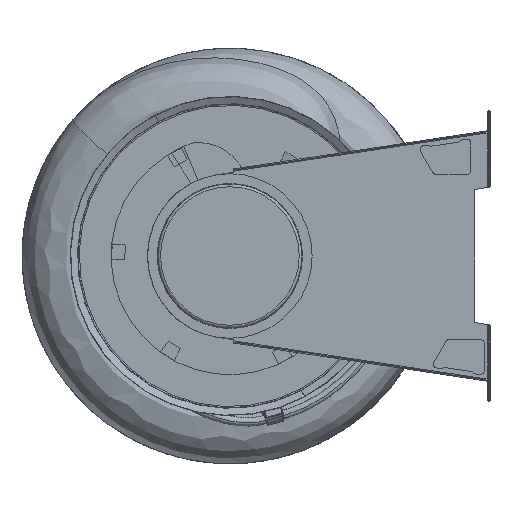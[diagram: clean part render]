
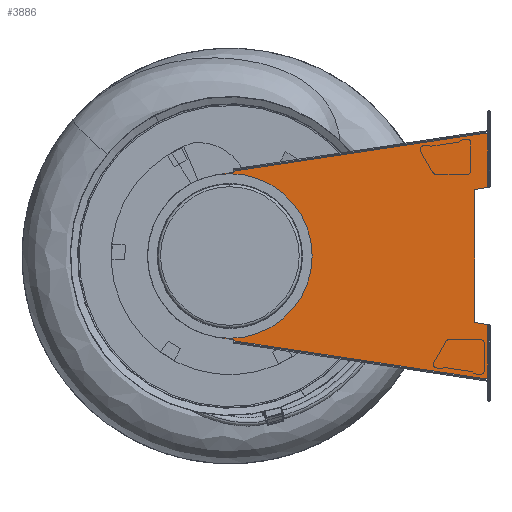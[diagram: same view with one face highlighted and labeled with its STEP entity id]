
A CAD part, left-side view. The second image highlights one B-rep face of the part: STEP entity #3886.
In plain terms, the highlighted planar face has unit normal (-1, 0, 0).
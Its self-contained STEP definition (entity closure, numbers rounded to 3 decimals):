
#2658=DIRECTION('',(0.,0.,1.));
#2659=VECTOR('',#2658,250.);
#2660=CARTESIAN_POINT('',(-1324.,-461.142,-125.));
#2661=LINE('',#2660,#2659);
#2674=CARTESIAN_POINT('',(-1324.,0.,0.));
#2675=DIRECTION('',(-1.,0.,0.));
#2676=DIRECTION('',(0.,1.,0.));
#2677=AXIS2_PLACEMENT_3D('',#2674,#2675,#2676);
#2679=CARTESIAN_POINT('',(-1324.,0.,0.));
#2680=DIRECTION('',(-1.,0.,0.));
#2681=DIRECTION('',(0.,-1.,0.));
#2682=AXIS2_PLACEMENT_3D('',#2679,#2680,#2681);
#2684=DIRECTION('',(0.,-0.989,0.149));
#2685=VECTOR('',#2684,3.105);
#2686=CARTESIAN_POINT('',(-1324.,23.07,153.273));
#2687=LINE('',#2686,#2685);
#2688=DIRECTION('',(0.,-0.989,0.149));
#2689=VECTOR('',#2688,6.895);
#2690=CARTESIAN_POINT('',(-1324.,20.,153.736));
#2691=LINE('',#2690,#2689);
#2692=DIRECTION('',(0.,-0.989,0.149));
#2693=VECTOR('',#2692,20.342);
#2694=CARTESIAN_POINT('',(-1324.,13.182,154.762));
#2695=LINE('',#2694,#2693);
#2696=CARTESIAN_POINT('',(-1324.,-21.767,160.022));
#2697=DIRECTION('',(1.,0.,0.));
#2698=DIRECTION('',(0.,0.989,-0.149));
#2699=AXIS2_PLACEMENT_3D('',#2696,#2697,#2698);
#2701=DIRECTION('',(0.,-0.989,0.149));
#2702=VECTOR('',#2701,3.853);
#2703=CARTESIAN_POINT('',(-1324.,-482.19,231.347));
#2704=LINE('',#2703,#2702);
#2705=DIRECTION('',(0.,0.,-1.));
#2706=VECTOR('',#2705,102.537);
#2707=CARTESIAN_POINT('',(-1324.,-486.,231.92));
#2708=LINE('',#2707,#2706);
#2709=DIRECTION('',(0.,0.985,-0.174));
#2710=VECTOR('',#2709,25.242);
#2711=CARTESIAN_POINT('',(-1324.,-486.,129.383));
#2712=LINE('',#2711,#2710);
#2713=DIRECTION('',(0.,0.985,0.174));
#2714=VECTOR('',#2713,25.242);
#2715=CARTESIAN_POINT('',(-1324.,-486.,-129.383));
#2716=LINE('',#2715,#2714);
#2717=DIRECTION('',(0.,0.,-1.));
#2718=VECTOR('',#2717,102.537);
#2719=CARTESIAN_POINT('',(-1324.,-486.,-129.383));
#2720=LINE('',#2719,#2718);
#2721=DIRECTION('',(0.,0.989,0.149));
#2722=VECTOR('',#2721,3.853);
#2723=CARTESIAN_POINT('',(-1324.,-486.,-231.92));
#2724=LINE('',#2723,#2722);
#2725=CARTESIAN_POINT('',(-1324.,-21.767,-160.022));
#2726=DIRECTION('',(1.,0.,0.));
#2727=DIRECTION('',(0.,1.,0.016));
#2728=AXIS2_PLACEMENT_3D('',#2725,#2726,#2727);
#2730=DIRECTION('',(0.,-0.989,-0.149));
#2731=VECTOR('',#2730,20.342);
#2732=CARTESIAN_POINT('',(-1324.,13.182,-154.762));
#2733=LINE('',#2732,#2731);
#2734=DIRECTION('',(0.,-0.989,-0.149));
#2735=VECTOR('',#2734,6.895);
#2736=CARTESIAN_POINT('',(-1324.,20.,-153.736));
#2737=LINE('',#2736,#2735);
#2738=DIRECTION('',(0.,-0.989,-0.149));
#2739=VECTOR('',#2738,3.105);
#2740=CARTESIAN_POINT('',(-1324.,23.07,-153.273));
#2741=LINE('',#2740,#2739);
#2747=CARTESIAN_POINT('',(-1324.,0.,0.));
#2748=DIRECTION('',(-1.,0.,0.));
#2749=DIRECTION('',(0.,0.149,0.989));
#2750=AXIS2_PLACEMENT_3D('',#2747,#2748,#2749);
#2784=CARTESIAN_POINT('',(-1324.,-6.769,159.787));
#2807=DIRECTION('',(0.,-0.989,0.149));
#2808=VECTOR('',#2807,480.777);
#2809=CARTESIAN_POINT('',(-1324.,-6.769,159.787));
#2810=LINE('',#2809,#2808);
#3377=CARTESIAN_POINT('',(-1324.,-6.769,-159.787));
#3379=DIRECTION('',(0.,-0.989,-0.149));
#3380=VECTOR('',#3379,480.777);
#3381=CARTESIAN_POINT('',(-1324.,-6.769,-159.787));
#3382=LINE('',#3381,#3380);
#3512=CARTESIAN_POINT('',(-1324.,-33.,0.));
#3513=CARTESIAN_POINT('',(-1324.,33.,0.));
#3514=VERTEX_POINT('',#3512);
#3515=VERTEX_POINT('',#3513);
#3517=CARTESIAN_POINT('',(-1324.,23.07,-153.273));
#3519=VERTEX_POINT('',#3517);
#3536=CARTESIAN_POINT('',(-1324.,-486.,-231.92));
#3537=CARTESIAN_POINT('',(-1324.,-482.19,-231.347));
#3538=VERTEX_POINT('',#3536);
#3539=VERTEX_POINT('',#3537);
#3590=CARTESIAN_POINT('',(-1324.,-486.,-129.383));
#3591=VERTEX_POINT('',#3590);
#3593=CARTESIAN_POINT('',(-1324.,23.07,153.273));
#3595=VERTEX_POINT('',#3593);
#3612=CARTESIAN_POINT('',(-1324.,-486.,231.92));
#3613=CARTESIAN_POINT('',(-1324.,-482.19,231.347));
#3614=VERTEX_POINT('',#3612);
#3615=VERTEX_POINT('',#3613);
#3653=CARTESIAN_POINT('',(-1324.,-486.,129.383));
#3654=VERTEX_POINT('',#3653);
#3659=CARTESIAN_POINT('',(-1324.,-461.142,-125.));
#3660=VERTEX_POINT('',#3659);
#3665=CARTESIAN_POINT('',(-1324.,-461.142,125.));
#3666=VERTEX_POINT('',#3665);
#3675=CARTESIAN_POINT('',(-1324.,20.,-153.736));
#3676=CARTESIAN_POINT('',(-1324.,13.182,-154.762));
#3677=VERTEX_POINT('',#3675);
#3678=VERTEX_POINT('',#3676);
#3684=VERTEX_POINT('',#3377);
#3693=CARTESIAN_POINT('',(-1324.,20.,153.736));
#3694=CARTESIAN_POINT('',(-1324.,13.182,154.762));
#3695=VERTEX_POINT('',#3693);
#3696=VERTEX_POINT('',#3694);
#3702=VERTEX_POINT('',#2784);
#3721=CARTESIAN_POINT('',(-1324.,-6.934,-157.79));
#3722=VERTEX_POINT('',#3721);
#3725=CARTESIAN_POINT('',(-1324.,-6.934,157.79));
#3726=VERTEX_POINT('',#3725);
#3838=CARTESIAN_POINT('',(-1324.,0.,0.));
#3839=DIRECTION('',(-1.,0.,0.));
#3840=DIRECTION('',(0.,0.,1.));
#3841=AXIS2_PLACEMENT_3D('',#3838,#3839,#3840);
#3842=PLANE('',#3841);
#3844=ORIENTED_EDGE('',*,*,#3843,.F.);
#3846=ORIENTED_EDGE('',*,*,#3845,.T.);
#3848=ORIENTED_EDGE('',*,*,#3847,.T.);
#3850=ORIENTED_EDGE('',*,*,#3849,.T.);
#3852=ORIENTED_EDGE('',*,*,#3851,.T.);
#3854=ORIENTED_EDGE('',*,*,#3853,.T.);
#3856=ORIENTED_EDGE('',*,*,#3855,.T.);
#3858=ORIENTED_EDGE('',*,*,#3857,.T.);
#3860=ORIENTED_EDGE('',*,*,#3859,.T.);
#3861=ORIENTED_EDGE('',*,*,#3821,.F.);
#3863=ORIENTED_EDGE('',*,*,#3862,.F.);
#3865=ORIENTED_EDGE('',*,*,#3864,.T.);
#3867=ORIENTED_EDGE('',*,*,#3866,.T.);
#3869=ORIENTED_EDGE('',*,*,#3868,.F.);
#3871=ORIENTED_EDGE('',*,*,#3870,.T.);
#3873=ORIENTED_EDGE('',*,*,#3872,.F.);
#3875=ORIENTED_EDGE('',*,*,#3874,.F.);
#3877=ORIENTED_EDGE('',*,*,#3876,.F.);
#3878=EDGE_LOOP('',(#3844,#3846,#3848,#3850,#3852,#3854,#3856,#3858,#3860,#3861,
#3863,#3865,#3867,#3869,#3871,#3873,#3875,#3877));
#3879=FACE_OUTER_BOUND('',#3878,.F.);
#3881=ORIENTED_EDGE('',*,*,#3880,.T.);
#3883=ORIENTED_EDGE('',*,*,#3882,.T.);
#3884=EDGE_LOOP('',(#3881,#3883));
#3885=FACE_BOUND('',#3884,.F.);
#2678=CIRCLE('',#2677,33.);
#2683=CIRCLE('',#2682,33.);
#2700=CIRCLE('',#2699,15.);
#2729=CIRCLE('',#2728,15.);
#2751=CIRCLE('',#2750,155.);
#3821=EDGE_CURVE('',#3660,#3666,#2661,.T.);
#3843=EDGE_CURVE('',#3595,#3519,#2751,.T.);
#3845=EDGE_CURVE('',#3595,#3695,#2687,.T.);
#3847=EDGE_CURVE('',#3695,#3696,#2691,.T.);
#3849=EDGE_CURVE('',#3696,#3726,#2695,.T.);
#3851=EDGE_CURVE('',#3726,#3702,#2700,.T.);
#3853=EDGE_CURVE('',#3702,#3615,#2810,.T.);
#3855=EDGE_CURVE('',#3615,#3614,#2704,.T.);
#3857=EDGE_CURVE('',#3614,#3654,#2708,.T.);
#3859=EDGE_CURVE('',#3654,#3666,#2712,.T.);
#3862=EDGE_CURVE('',#3591,#3660,#2716,.T.);
#3864=EDGE_CURVE('',#3591,#3538,#2720,.T.);
#3866=EDGE_CURVE('',#3538,#3539,#2724,.T.);
#3868=EDGE_CURVE('',#3684,#3539,#3382,.T.);
#3870=EDGE_CURVE('',#3684,#3722,#2729,.T.);
#3872=EDGE_CURVE('',#3678,#3722,#2733,.T.);
#3874=EDGE_CURVE('',#3677,#3678,#2737,.T.);
#3876=EDGE_CURVE('',#3519,#3677,#2741,.T.);
#3880=EDGE_CURVE('',#3515,#3514,#2678,.T.);
#3882=EDGE_CURVE('',#3514,#3515,#2683,.T.);
#3886=ADVANCED_FACE('',(#3879,#3885),#3842,.T.);
